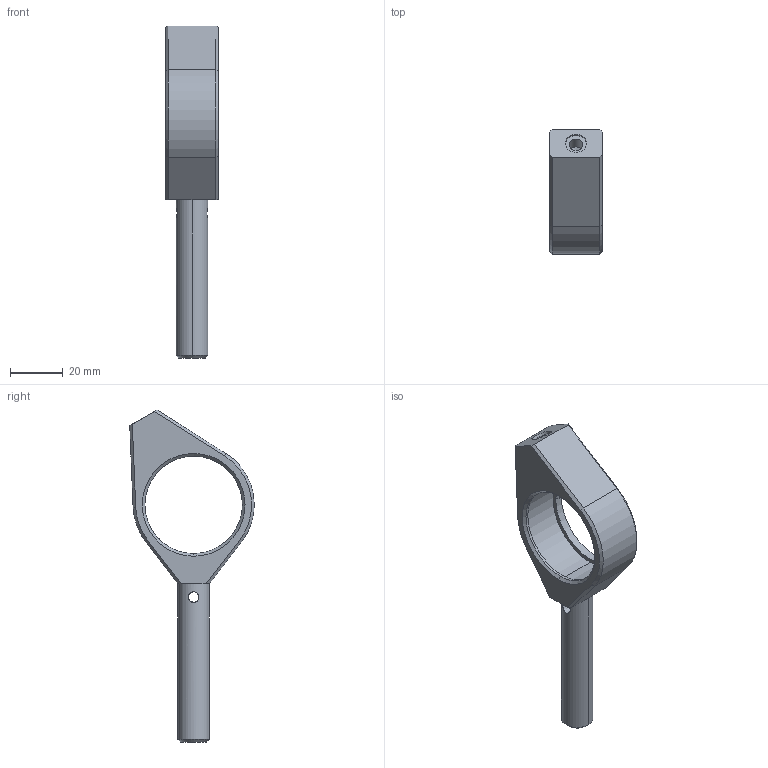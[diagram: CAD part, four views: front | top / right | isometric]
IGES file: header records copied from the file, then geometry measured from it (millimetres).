
Global section: file name: No Iges File Name specified; native system: AutoDesk Inventor R12.0; preprocessor: AutoDesk Inventor Iges Exporter R12.0; author: No Author specified; organization: No Organization specified; date: 20100803.115608; units: millimetre
Bounding box: 20 x 47.24 x 126 mm (x, y, z)
Volume: 25636.5 mm3; surface area: 11031.2 mm2
Topology: 1 solids, 3 shells, 70 faces, 165 edges, 101 vertices
Faces by surface type: plane 32, bspline 14, revolution 12, cone 6, cylinder 6
